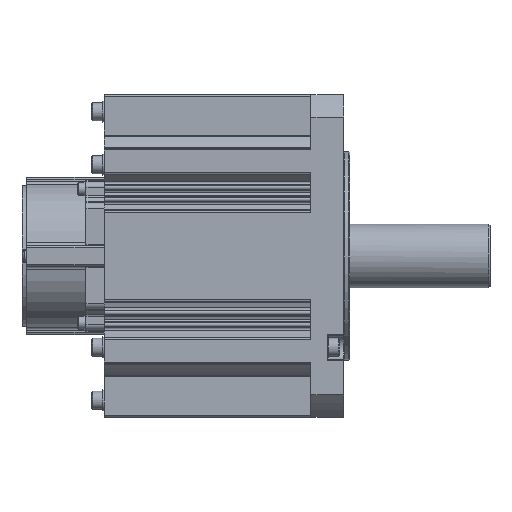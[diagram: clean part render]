
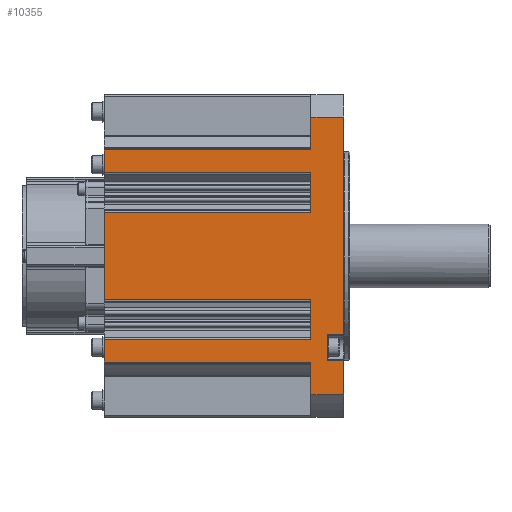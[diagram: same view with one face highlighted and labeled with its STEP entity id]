
A CAD part, front view. The second image highlights one B-rep face of the part: STEP entity #10355.
In plain terms, the highlighted planar face has unit normal (0, -1, 0).
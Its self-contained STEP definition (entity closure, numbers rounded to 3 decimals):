
#213=PLANE('',#11365);
#543=LINE('',#15687,#1456);
#546=LINE('',#15699,#1459);
#842=LINE('',#16942,#1755);
#843=LINE('',#16946,#1756);
#844=LINE('',#16950,#1757);
#845=LINE('',#16956,#1758);
#846=LINE('',#16960,#1759);
#847=LINE('',#16964,#1760);
#848=LINE('',#16970,#1761);
#849=LINE('',#16974,#1762);
#850=LINE('',#16978,#1763);
#884=LINE('',#17130,#1797);
#885=LINE('',#17131,#1798);
#886=LINE('',#17132,#1799);
#891=LINE('',#17148,#1804);
#905=LINE('',#17179,#1818);
#906=LINE('',#17181,#1819);
#907=LINE('',#17183,#1820);
#908=LINE('',#17185,#1821);
#909=LINE('',#17186,#1822);
#1456=VECTOR('',#12320,1000.);
#1459=VECTOR('',#12329,1000.);
#1755=VECTOR('',#13397,1000.);
#1756=VECTOR('',#13402,1000.);
#1757=VECTOR('',#13407,1000.);
#1758=VECTOR('',#13414,1000.);
#1759=VECTOR('',#13419,1000.);
#1760=VECTOR('',#13424,1000.);
#1761=VECTOR('',#13431,1000.);
#1762=VECTOR('',#13436,1000.);
#1763=VECTOR('',#13441,1000.);
#1797=VECTOR('',#13575,1000.);
#1798=VECTOR('',#13576,1000.);
#1799=VECTOR('',#13577,1000.);
#1804=VECTOR('',#13594,1000.);
#1818=VECTOR('',#13630,1000.);
#1819=VECTOR('',#13633,1000.);
#1820=VECTOR('',#13634,1000.);
#1821=VECTOR('',#13635,1000.);
#1822=VECTOR('',#13636,1000.);
#3682=ORIENTED_EDGE('',*,*,#6176,.T.);
#3683=ORIENTED_EDGE('',*,*,#5499,.F.);
#3684=ORIENTED_EDGE('',*,*,#6177,.F.);
#3685=ORIENTED_EDGE('',*,*,#6178,.T.);
#3686=ORIENTED_EDGE('',*,*,#6179,.T.);
#3687=ORIENTED_EDGE('',*,*,#5493,.F.);
#3688=ORIENTED_EDGE('',*,*,#6180,.F.);
#3689=ORIENTED_EDGE('',*,*,#6160,.F.);
#3690=ORIENTED_EDGE('',*,*,#6069,.T.);
#3691=ORIENTED_EDGE('',*,*,#6152,.T.);
#3692=ORIENTED_EDGE('',*,*,#6067,.F.);
#3693=ORIENTED_EDGE('',*,*,#6064,.F.);
#3694=ORIENTED_EDGE('',*,*,#6062,.T.);
#3695=ORIENTED_EDGE('',*,*,#6151,.T.);
#3696=ORIENTED_EDGE('',*,*,#6060,.F.);
#3697=ORIENTED_EDGE('',*,*,#6057,.F.);
#3698=ORIENTED_EDGE('',*,*,#6055,.T.);
#3699=ORIENTED_EDGE('',*,*,#6150,.T.);
#3700=ORIENTED_EDGE('',*,*,#6053,.F.);
#3701=ORIENTED_EDGE('',*,*,#6071,.F.);
#5493=EDGE_CURVE('',#6989,#6990,#543,.T.);
#5499=EDGE_CURVE('',#6995,#6996,#546,.T.);
#6053=EDGE_CURVE('',#7396,#7395,#842,.T.);
#6055=EDGE_CURVE('',#7398,#7397,#843,.T.);
#6057=EDGE_CURVE('',#7398,#7399,#844,.T.);
#6060=EDGE_CURVE('',#7399,#7400,#845,.T.);
#6062=EDGE_CURVE('',#7402,#7401,#846,.T.);
#6064=EDGE_CURVE('',#7402,#7403,#847,.T.);
#6067=EDGE_CURVE('',#7403,#7404,#848,.T.);
#6069=EDGE_CURVE('',#7406,#7405,#849,.T.);
#6071=EDGE_CURVE('',#7407,#7396,#850,.T.);
#6150=EDGE_CURVE('',#7397,#7395,#884,.T.);
#6151=EDGE_CURVE('',#7401,#7400,#885,.T.);
#6152=EDGE_CURVE('',#7405,#7404,#886,.T.);
#6160=EDGE_CURVE('',#7406,#7480,#891,.T.);
#6176=EDGE_CURVE('',#7407,#6996,#905,.T.);
#6177=EDGE_CURVE('',#7486,#6995,#906,.T.);
#6178=EDGE_CURVE('',#7486,#7487,#907,.T.);
#6179=EDGE_CURVE('',#7487,#6990,#908,.T.);
#6180=EDGE_CURVE('',#7480,#6989,#909,.T.);
#6989=VERTEX_POINT('',#15686);
#6990=VERTEX_POINT('',#15688);
#6995=VERTEX_POINT('',#15698);
#6996=VERTEX_POINT('',#15700);
#7395=VERTEX_POINT('',#16939);
#7396=VERTEX_POINT('',#16941);
#7397=VERTEX_POINT('',#16945);
#7398=VERTEX_POINT('',#16947);
#7399=VERTEX_POINT('',#16951);
#7400=VERTEX_POINT('',#16955);
#7401=VERTEX_POINT('',#16959);
#7402=VERTEX_POINT('',#16961);
#7403=VERTEX_POINT('',#16965);
#7404=VERTEX_POINT('',#16969);
#7405=VERTEX_POINT('',#16973);
#7406=VERTEX_POINT('',#16975);
#7407=VERTEX_POINT('',#16979);
#7480=VERTEX_POINT('',#17149);
#7486=VERTEX_POINT('',#17182);
#7487=VERTEX_POINT('',#17184);
#8614=EDGE_LOOP('',(#3682,#3683,#3684,#3685,#3686,#3687,#3688,#3689,#3690,
#3691,#3692,#3693,#3694,#3695,#3696,#3697,#3698,#3699,#3700,#3701));
#9369=FACE_BOUND('',#8614,.T.);
#10355=ADVANCED_FACE('',(#9369),#213,.T.);
#11365=AXIS2_PLACEMENT_3D('',#17180,#13631,#13632);
#12320=DIRECTION('',(0.,0.,-1.));
#12329=DIRECTION('',(0.,0.,-1.));
#13397=DIRECTION('',(-1.,0.,0.));
#13402=DIRECTION('',(-1.,0.,0.));
#13407=DIRECTION('',(0.,0.,1.));
#13414=DIRECTION('',(-1.,0.,0.));
#13419=DIRECTION('',(-1.,0.,0.));
#13424=DIRECTION('',(0.,0.,1.));
#13431=DIRECTION('',(-1.,0.,0.));
#13436=DIRECTION('',(-1.,0.,0.));
#13441=DIRECTION('',(0.,0.,1.));
#13575=DIRECTION('',(0.,0.,-1.));
#13576=DIRECTION('',(0.,0.,-1.));
#13577=DIRECTION('',(0.,0.,-1.));
#13594=DIRECTION('',(0.,0.,1.));
#13630=DIRECTION('',(1.,0.,0.));
#13631=DIRECTION('',(0.,-1.,0.));
#13632=DIRECTION('',(0.,0.,-1.));
#13633=DIRECTION('',(1.,0.,0.));
#13634=DIRECTION('',(0.,0.,1.));
#13635=DIRECTION('',(1.,0.,0.));
#13636=DIRECTION('',(1.,0.,0.));
#15686=CARTESIAN_POINT('',(0.,-88.3,75.996));
#15687=CARTESIAN_POINT('',(0.,-88.3,75.996));
#15688=CARTESIAN_POINT('',(0.,-88.3,-43.));
#15698=CARTESIAN_POINT('',(0.,-88.3,-57.));
#15699=CARTESIAN_POINT('',(0.,-88.3,75.996));
#15700=CARTESIAN_POINT('',(0.,-88.3,-75.996));
#16939=CARTESIAN_POINT('',(-131.,-88.3,-58.));
#16941=CARTESIAN_POINT('',(-18.,-88.3,-58.));
#16942=CARTESIAN_POINT('',(-18.,-88.3,-58.));
#16945=CARTESIAN_POINT('',(-131.,-88.3,-45.577));
#16946=CARTESIAN_POINT('',(-18.,-88.3,-45.577));
#16947=CARTESIAN_POINT('',(-18.,-88.3,-45.577));
#16950=CARTESIAN_POINT('',(-18.,-88.3,75.996));
#16951=CARTESIAN_POINT('',(-18.,-88.3,-24.));
#16955=CARTESIAN_POINT('',(-131.,-88.3,-24.));
#16956=CARTESIAN_POINT('',(-18.,-88.3,-24.));
#16959=CARTESIAN_POINT('',(-131.,-88.3,24.));
#16960=CARTESIAN_POINT('',(-18.,-88.3,24.));
#16961=CARTESIAN_POINT('',(-18.,-88.3,24.));
#16964=CARTESIAN_POINT('',(-18.,-88.3,75.996));
#16965=CARTESIAN_POINT('',(-18.,-88.3,45.577));
#16969=CARTESIAN_POINT('',(-131.,-88.3,45.577));
#16970=CARTESIAN_POINT('',(-18.,-88.3,45.577));
#16973=CARTESIAN_POINT('',(-131.,-88.3,58.));
#16974=CARTESIAN_POINT('',(-18.,-88.3,58.));
#16975=CARTESIAN_POINT('',(-18.,-88.3,58.));
#16978=CARTESIAN_POINT('',(-18.,-88.3,75.996));
#16979=CARTESIAN_POINT('',(-18.,-88.3,-75.996));
#17130=CARTESIAN_POINT('',(-131.,-88.3,75.996));
#17131=CARTESIAN_POINT('',(-131.,-88.3,75.996));
#17132=CARTESIAN_POINT('',(-131.,-88.3,75.996));
#17148=CARTESIAN_POINT('',(-18.,-88.3,75.996));
#17149=CARTESIAN_POINT('',(-18.,-88.3,75.996));
#17179=CARTESIAN_POINT('',(-131.,-88.3,-75.996));
#17180=CARTESIAN_POINT('',(-131.,-88.3,75.996));
#17181=CARTESIAN_POINT('',(-9.,-88.3,-57.));
#17182=CARTESIAN_POINT('',(-9.,-88.3,-57.));
#17183=CARTESIAN_POINT('',(-9.,-88.3,75.996));
#17184=CARTESIAN_POINT('',(-9.,-88.3,-43.));
#17185=CARTESIAN_POINT('',(-9.,-88.3,-43.));
#17186=CARTESIAN_POINT('',(-131.,-88.3,75.996));
